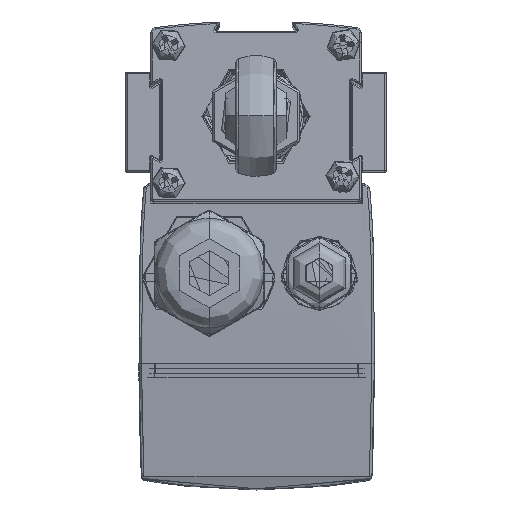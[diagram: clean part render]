
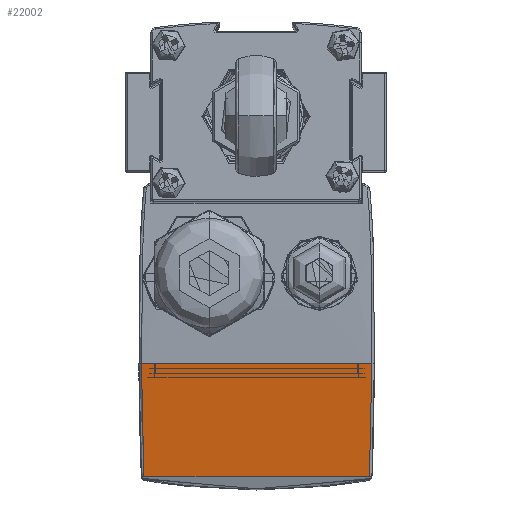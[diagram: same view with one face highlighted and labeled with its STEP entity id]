
A CAD part, top view. The second image highlights one B-rep face of the part: STEP entity #22002.
In plain terms, the highlighted cylindrical face has radius 320 mm (diameter 640 mm), a partial arc.
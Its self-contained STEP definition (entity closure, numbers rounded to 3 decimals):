
#2405 = CARTESIAN_POINT ( 'NONE',  ( -7.597, 23.001, 159.108 ) ) ;
#4168 = CARTESIAN_POINT ( 'NONE',  ( -22.668, -22.518, 156.576 ) ) ;
#7303 = VERTEX_POINT ( 'NONE', #4168 ) ;
#10431 = CARTESIAN_POINT ( 'NONE',  ( -23.952, 15.069, 156.337 ) ) ;
#20654 = DIRECTION ( 'NONE',  ( 0., 0., 1. ) ) ;
#22002 = ADVANCED_FACE ( 'NONE', ( #114434 ), #184986, .T. ) ;
#36033 = ORIENTED_EDGE ( 'NONE', *, *, #120773, .T. ) ;
#37966 = CARTESIAN_POINT ( 'NONE',  ( -22.668, 22.518, 156.576 ) ) ;
#42184 = CARTESIAN_POINT ( 'NONE',  ( -7.597, -23.001, 159.108 ) ) ;
#46079 = CARTESIAN_POINT ( 'NONE',  ( 0., 23., 159.969 ) ) ;
#46354 = B_SPLINE_CURVE_WITH_KNOTS ( 'NONE', 3,
 ( #101972, #86850, #42184, #147357 ),
 .UNSPECIFIED., .F., .F.,
 ( 4, 4 ),
 ( 0., 0.023 ),
 .UNSPECIFIED. ) ;
#47644 = CARTESIAN_POINT ( 'NONE',  ( -22.668, 22.518, 156.576 ) ) ;
#50506 = EDGE_CURVE ( 'NONE', #7303, #174189, #46354, .T. ) ;
#57019 = CARTESIAN_POINT ( 'NONE',  ( -22.668, 22.518, 156.576 ) ) ;
#60808 = VERTEX_POINT ( 'NONE', #46079 ) ;
#61284 = ORIENTED_EDGE ( 'NONE', *, *, #50506, .T. ) ;
#63555 = CARTESIAN_POINT ( 'NONE',  ( 0., -23., 159.969 ) ) ;
#66366 = AXIS2_PLACEMENT_3D ( 'NONE', #125738, #95471, #20654 ) ;
#70818 = CARTESIAN_POINT ( 'NONE',  ( -24.595, -7.563, 156.211 ) ) ;
#81493 = ORIENTED_EDGE ( 'NONE', *, *, #102038, .T. ) ;
#85849 = CARTESIAN_POINT ( 'NONE',  ( -22.668, -22.518, 156.576 ) ) ;
#86850 = CARTESIAN_POINT ( 'NONE',  ( -15.159, -22.838, 157.976 ) ) ;
#90491 = DIRECTION ( 'NONE',  ( 0., 1., 0. ) ) ;
#95471 = DIRECTION ( 'NONE',  ( 0., 1., 0. ) ) ;
#99145 = ORIENTED_EDGE ( 'NONE', *, *, #120470, .T. ) ;
#101972 = CARTESIAN_POINT ( 'NONE',  ( -22.668, -22.518, 156.576 ) ) ;
#102038 = EDGE_CURVE ( 'NONE', #174189, #60808, #141870, .T. ) ;
#103927 = B_SPLINE_CURVE_WITH_KNOTS ( 'NONE', 3,
 ( #107493, #2405, #137750, #47644 ),
 .UNSPECIFIED., .F., .F.,
 ( 4, 4 ),
 ( 0., 0.023 ),
 .UNSPECIFIED. ) ;
#107493 = CARTESIAN_POINT ( 'NONE',  ( 0., 23., 159.969 ) ) ;
#114434 = FACE_OUTER_BOUND ( 'NONE', #180311, .T. ) ;
#120470 = EDGE_CURVE ( 'NONE', #145734, #7303, #173844, .T. ) ;
#120773 = EDGE_CURVE ( 'NONE', #60808, #145734, #103927, .T. ) ;
#125738 = CARTESIAN_POINT ( 'NONE',  ( 36., -23.5, -158. ) ) ;
#137122 = VECTOR ( 'NONE', #90491, 1000. ) ;
#137750 = CARTESIAN_POINT ( 'NONE',  ( -15.159, 22.838, 157.976 ) ) ;
#141870 = LINE ( 'NONE', #180499, #137122 ) ;
#145734 = VERTEX_POINT ( 'NONE', #57019 ) ;
#147357 = CARTESIAN_POINT ( 'NONE',  ( 0., -23., 159.969 ) ) ;
#160834 = CARTESIAN_POINT ( 'NONE',  ( -24.595, 7.563, 156.211 ) ) ;
#173844 = B_SPLINE_CURVE_WITH_KNOTS ( 'NONE', 3,
 ( #37966, #10431, #160834, #70818, #175909, #85849 ),
 .UNSPECIFIED., .F., .F.,
 ( 4, 2, 4 ),
 ( 0., 0.023, 0.045 ),
 .UNSPECIFIED. ) ;
#174189 = VERTEX_POINT ( 'NONE', #63555 ) ;
#175909 = CARTESIAN_POINT ( 'NONE',  ( -23.952, -15.069, 156.337 ) ) ;
#180311 = EDGE_LOOP ( 'NONE', ( #99145, #61284, #81493, #36033 ) ) ;
#180499 = CARTESIAN_POINT ( 'NONE',  ( 0., -23.5, 159.969 ) ) ;
#184986 = CYLINDRICAL_SURFACE ( 'NONE', #66366, 320. ) ;
